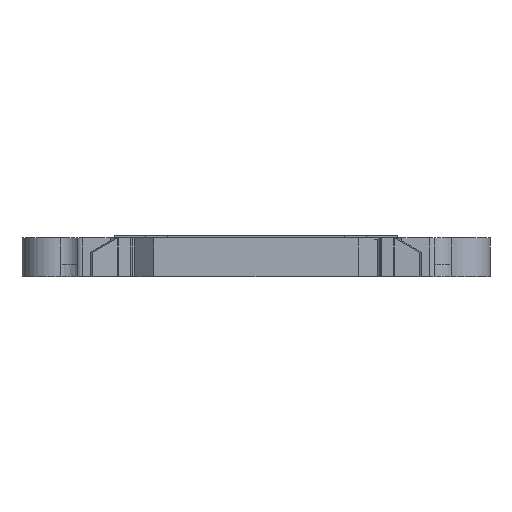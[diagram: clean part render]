
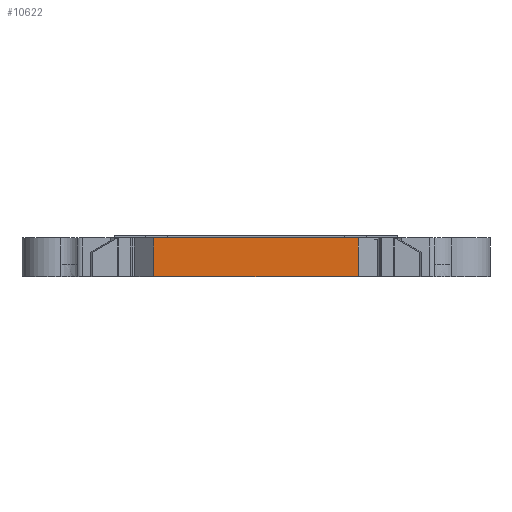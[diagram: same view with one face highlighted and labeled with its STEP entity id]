
A CAD part, front view. The second image highlights one B-rep face of the part: STEP entity #10622.
In plain terms, the highlighted planar face has unit normal (0, -1, 0).
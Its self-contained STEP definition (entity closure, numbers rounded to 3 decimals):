
#72 = PLANE('',#73);
#73 = AXIS2_PLACEMENT_3D('',#74,#75,#76);
#74 = CARTESIAN_POINT('',(11.19,-24.806,9.1));
#75 = DIRECTION('',(0.,0.,1.));
#76 = DIRECTION('',(0.999,-0.035,0.));
#126 = PLANE('',#127);
#127 = AXIS2_PLACEMENT_3D('',#128,#129,#130);
#128 = CARTESIAN_POINT('',(11.19,-24.806,5.9));
#129 = DIRECTION('',(0.,0.,1.));
#130 = DIRECTION('',(0.999,-0.035,0.));
#3231 = VERTEX_POINT('',#3232);
#3232 = CARTESIAN_POINT('',(-8.417,-35.5,9.1));
#3246 = PLANE('',#3247);
#3247 = AXIS2_PLACEMENT_3D('',#3248,#3249,#3250);
#3248 = CARTESIAN_POINT('',(-11.522,-32.502,5.9));
#3249 = DIRECTION('',(0.695,0.719,-0.));
#3250 = DIRECTION('',(0.719,-0.695,0.));
#3258 = EDGE_CURVE('',#3231,#3259,#3261,.T.);
#3259 = VERTEX_POINT('',#3260);
#3260 = CARTESIAN_POINT('',(8.417,-35.5,9.1));
#3261 = SURFACE_CURVE('',#3262,(#3266,#3273),.PCURVE_S1.);
#3262 = LINE('',#3263,#3264);
#3263 = CARTESIAN_POINT('',(-12.208,-35.5,9.1));
#3264 = VECTOR('',#3265,1.);
#3265 = DIRECTION('',(1.,0.,0.));
#3266 = PCURVE('',#72,#3267);
#3267 = DEFINITIONAL_REPRESENTATION('',(#3268),#3272);
#3268 = LINE('',#3269,#3270);
#3269 = CARTESIAN_POINT('',(-23.011,-11.504));
#3270 = VECTOR('',#3271,1.);
#3271 = DIRECTION('',(0.999,0.035));
#3272 = ( GEOMETRIC_REPRESENTATION_CONTEXT(2) 
PARAMETRIC_REPRESENTATION_CONTEXT() REPRESENTATION_CONTEXT('2D SPACE',''
  ) );
#3273 = PCURVE('',#3274,#3279);
#3274 = PLANE('',#3275);
#3275 = AXIS2_PLACEMENT_3D('',#3276,#3277,#3278);
#3276 = CARTESIAN_POINT('',(-11.417,-35.5,6.9));
#3277 = DIRECTION('',(0.,1.,0.));
#3278 = DIRECTION('',(1.,0.,0.));
#3279 = DEFINITIONAL_REPRESENTATION('',(#3280),#3284);
#3280 = LINE('',#3281,#3282);
#3281 = CARTESIAN_POINT('',(-0.792,-2.2));
#3282 = VECTOR('',#3283,1.);
#3283 = DIRECTION('',(1.,0.));
#3284 = ( GEOMETRIC_REPRESENTATION_CONTEXT(2) 
PARAMETRIC_REPRESENTATION_CONTEXT() REPRESENTATION_CONTEXT('2D SPACE',''
  ) );
#3302 = PLANE('',#3303);
#3303 = AXIS2_PLACEMENT_3D('',#3304,#3305,#3306);
#3304 = CARTESIAN_POINT('',(11.522,-32.502,5.9));
#3305 = DIRECTION('',(0.695,-0.719,0.));
#3306 = DIRECTION('',(-0.719,-0.695,0.));
#7845 = VERTEX_POINT('',#7846);
#7846 = CARTESIAN_POINT('',(-8.417,-35.5,5.9));
#7867 = EDGE_CURVE('',#7845,#7868,#7870,.T.);
#7868 = VERTEX_POINT('',#7869);
#7869 = CARTESIAN_POINT('',(8.417,-35.5,5.9));
#7870 = SURFACE_CURVE('',#7871,(#7875,#7882),.PCURVE_S1.);
#7871 = LINE('',#7872,#7873);
#7872 = CARTESIAN_POINT('',(-10.533,-35.5,5.9));
#7873 = VECTOR('',#7874,1.);
#7874 = DIRECTION('',(1.,0.,0.));
#7875 = PCURVE('',#126,#7876);
#7876 = DEFINITIONAL_REPRESENTATION('',(#7877),#7881);
#7877 = LINE('',#7878,#7879);
#7878 = CARTESIAN_POINT('',(-21.337,-11.446));
#7879 = VECTOR('',#7880,1.);
#7880 = DIRECTION('',(0.999,0.035));
#7881 = ( GEOMETRIC_REPRESENTATION_CONTEXT(2) 
PARAMETRIC_REPRESENTATION_CONTEXT() REPRESENTATION_CONTEXT('2D SPACE',''
  ) );
#7882 = PCURVE('',#3274,#7883);
#7883 = DEFINITIONAL_REPRESENTATION('',(#7884),#7888);
#7884 = LINE('',#7885,#7886);
#7885 = CARTESIAN_POINT('',(0.883,1.));
#7886 = VECTOR('',#7887,1.);
#7887 = DIRECTION('',(1.,0.));
#7888 = ( GEOMETRIC_REPRESENTATION_CONTEXT(2) 
PARAMETRIC_REPRESENTATION_CONTEXT() REPRESENTATION_CONTEXT('2D SPACE',''
  ) );
#10575 = EDGE_CURVE('',#3259,#7868,#10576,.T.);
#10576 = SURFACE_CURVE('',#10577,(#10581,#10588),.PCURVE_S1.);
#10577 = LINE('',#10578,#10579);
#10578 = CARTESIAN_POINT('',(8.417,-35.5,9.1));
#10579 = VECTOR('',#10580,1.);
#10580 = DIRECTION('',(0.,0.,-1.));
#10581 = PCURVE('',#3302,#10582);
#10582 = DEFINITIONAL_REPRESENTATION('',(#10583),#10587);
#10583 = LINE('',#10584,#10585);
#10584 = CARTESIAN_POINT('',(4.316,-3.2));
#10585 = VECTOR('',#10586,1.);
#10586 = DIRECTION('',(-0.,1.));
#10587 = ( GEOMETRIC_REPRESENTATION_CONTEXT(2) 
PARAMETRIC_REPRESENTATION_CONTEXT() REPRESENTATION_CONTEXT('2D SPACE',''
  ) );
#10588 = PCURVE('',#3274,#10589);
#10589 = DEFINITIONAL_REPRESENTATION('',(#10590),#10594);
#10590 = LINE('',#10591,#10592);
#10591 = CARTESIAN_POINT('',(19.834,-2.2));
#10592 = VECTOR('',#10593,1.);
#10593 = DIRECTION('',(0.,1.));
#10594 = ( GEOMETRIC_REPRESENTATION_CONTEXT(2) 
PARAMETRIC_REPRESENTATION_CONTEXT() REPRESENTATION_CONTEXT('2D SPACE',''
  ) );
#10622 = ADVANCED_FACE('',(#10623),#3274,.F.);
#10623 = FACE_BOUND('',#10624,.F.);
#10624 = EDGE_LOOP('',(#10625,#10626,#10647,#10648));
#10625 = ORIENTED_EDGE('',*,*,#7867,.F.);
#10626 = ORIENTED_EDGE('',*,*,#10627,.F.);
#10627 = EDGE_CURVE('',#3231,#7845,#10628,.T.);
#10628 = SURFACE_CURVE('',#10629,(#10633,#10640),.PCURVE_S1.);
#10629 = LINE('',#10630,#10631);
#10630 = CARTESIAN_POINT('',(-8.417,-35.5,9.1));
#10631 = VECTOR('',#10632,1.);
#10632 = DIRECTION('',(0.,0.,-1.));
#10633 = PCURVE('',#3274,#10634);
#10634 = DEFINITIONAL_REPRESENTATION('',(#10635),#10639);
#10635 = LINE('',#10636,#10637);
#10636 = CARTESIAN_POINT('',(3.,-2.2));
#10637 = VECTOR('',#10638,1.);
#10638 = DIRECTION('',(0.,1.));
#10639 = ( GEOMETRIC_REPRESENTATION_CONTEXT(2) 
PARAMETRIC_REPRESENTATION_CONTEXT() REPRESENTATION_CONTEXT('2D SPACE',''
  ) );
#10640 = PCURVE('',#3246,#10641);
#10641 = DEFINITIONAL_REPRESENTATION('',(#10642),#10646);
#10642 = LINE('',#10643,#10644);
#10643 = CARTESIAN_POINT('',(4.316,-3.2));
#10644 = VECTOR('',#10645,1.);
#10645 = DIRECTION('',(0.,1.));
#10646 = ( GEOMETRIC_REPRESENTATION_CONTEXT(2) 
PARAMETRIC_REPRESENTATION_CONTEXT() REPRESENTATION_CONTEXT('2D SPACE',''
  ) );
#10647 = ORIENTED_EDGE('',*,*,#3258,.T.);
#10648 = ORIENTED_EDGE('',*,*,#10575,.T.);
